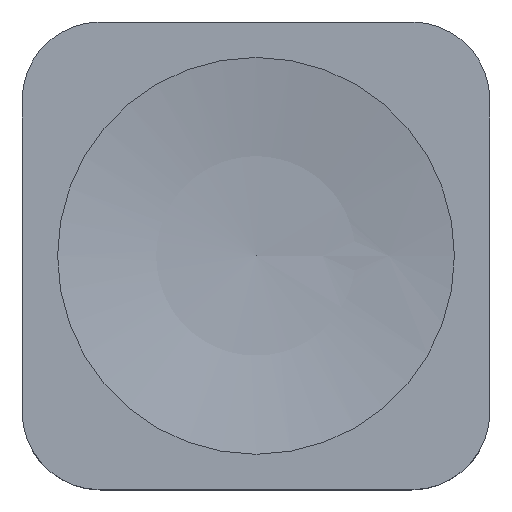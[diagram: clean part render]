
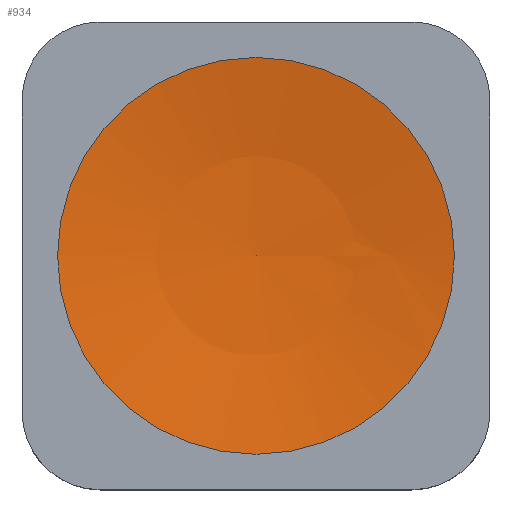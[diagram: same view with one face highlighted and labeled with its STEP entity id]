
A CAD part, top view. The second image highlights one B-rep face of the part: STEP entity #934.
In plain terms, the highlighted spherical face has radius 42 mm.
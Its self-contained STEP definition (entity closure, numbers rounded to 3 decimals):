
#44 = PLANE('',#45);
#45 = AXIS2_PLACEMENT_3D('',#46,#47,#48);
#46 = CARTESIAN_POINT('',(-9.,-9.,6.));
#47 = DIRECTION('',(0.,0.,1.));
#48 = DIRECTION('',(1.,0.,0.));
#340 = EDGE_CURVE('',#341,#341,#343,.T.);
#341 = VERTEX_POINT('',#342);
#342 = CARTESIAN_POINT('',(7.636,0.,6.));
#343 = SURFACE_CURVE('',#344,(#349,#356),.PCURVE_S1.);
#344 = CIRCLE('',#345,7.636);
#345 = AXIS2_PLACEMENT_3D('',#346,#347,#348);
#346 = CARTESIAN_POINT('',(0.,0.,6.));
#347 = DIRECTION('',(0.,0.,1.));
#348 = DIRECTION('',(1.,0.,-0.));
#349 = PCURVE('',#44,#350);
#350 = DEFINITIONAL_REPRESENTATION('',(#351),#355);
#351 = CIRCLE('',#352,7.636);
#352 = AXIS2_PLACEMENT_2D('',#353,#354);
#353 = CARTESIAN_POINT('',(9.,9.));
#354 = DIRECTION('',(1.,0.));
#355 = ( GEOMETRIC_REPRESENTATION_CONTEXT(2) 
PARAMETRIC_REPRESENTATION_CONTEXT() REPRESENTATION_CONTEXT('2D SPACE',''
  ) );
#356 = PCURVE('',#357,#362);
#357 = SPHERICAL_SURFACE('',#358,42.);
#358 = AXIS2_PLACEMENT_3D('',#359,#360,#361);
#359 = CARTESIAN_POINT('',(0.,0.,47.3));
#360 = DIRECTION('',(0.,0.,1.));
#361 = DIRECTION('',(1.,0.,0.));
#362 = DEFINITIONAL_REPRESENTATION('',(#363),#367);
#363 = LINE('',#364,#365);
#364 = CARTESIAN_POINT('',(0.,-1.388));
#365 = VECTOR('',#366,1.);
#366 = DIRECTION('',(1.,0.));
#367 = ( GEOMETRIC_REPRESENTATION_CONTEXT(2) 
PARAMETRIC_REPRESENTATION_CONTEXT() REPRESENTATION_CONTEXT('2D SPACE',''
  ) );
#934 = ADVANCED_FACE('',(#935),#357,.F.);
#935 = FACE_BOUND('',#936,.F.);
#936 = EDGE_LOOP('',(#937,#938,#962));
#937 = ORIENTED_EDGE('',*,*,#340,.F.);
#938 = ORIENTED_EDGE('',*,*,#939,.F.);
#939 = EDGE_CURVE('',#940,#341,#942,.T.);
#940 = VERTEX_POINT('',#941);
#941 = CARTESIAN_POINT('',(0.,0.,5.3));
#942 = SEAM_CURVE('',#943,(#948,#955),.PCURVE_S1.);
#943 = CIRCLE('',#944,42.);
#944 = AXIS2_PLACEMENT_3D('',#945,#946,#947);
#945 = CARTESIAN_POINT('',(0.,0.,47.3));
#946 = DIRECTION('',(0.,-1.,0.));
#947 = DIRECTION('',(1.,0.,0.));
#948 = PCURVE('',#357,#949);
#949 = DEFINITIONAL_REPRESENTATION('',(#950),#954);
#950 = LINE('',#951,#952);
#951 = CARTESIAN_POINT('',(6.283,-6.283));
#952 = VECTOR('',#953,1.);
#953 = DIRECTION('',(0.,1.));
#954 = ( GEOMETRIC_REPRESENTATION_CONTEXT(2) 
PARAMETRIC_REPRESENTATION_CONTEXT() REPRESENTATION_CONTEXT('2D SPACE',''
  ) );
#955 = PCURVE('',#357,#956);
#956 = DEFINITIONAL_REPRESENTATION('',(#957),#961);
#957 = LINE('',#958,#959);
#958 = CARTESIAN_POINT('',(0.,-6.283));
#959 = VECTOR('',#960,1.);
#960 = DIRECTION('',(0.,1.));
#961 = ( GEOMETRIC_REPRESENTATION_CONTEXT(2) 
PARAMETRIC_REPRESENTATION_CONTEXT() REPRESENTATION_CONTEXT('2D SPACE',''
  ) );
#962 = ORIENTED_EDGE('',*,*,#939,.T.);
